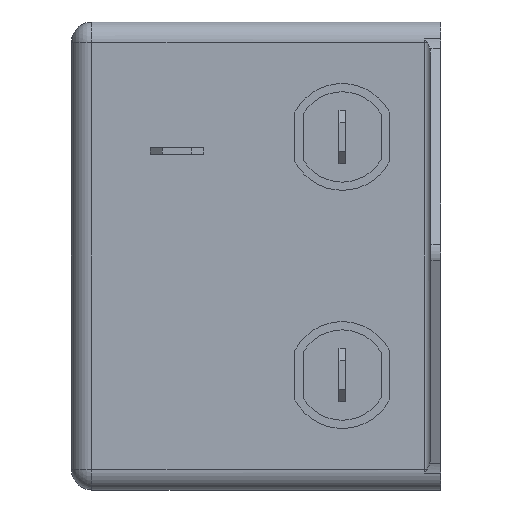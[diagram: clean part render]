
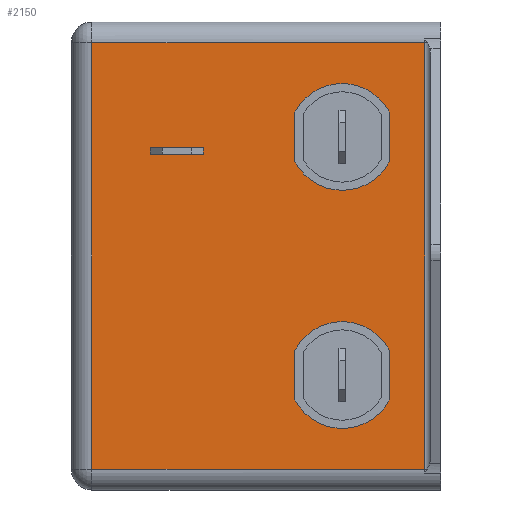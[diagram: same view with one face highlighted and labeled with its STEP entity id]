
A CAD part, left-side view. The second image highlights one B-rep face of the part: STEP entity #2150.
In plain terms, the highlighted planar face has unit normal (-1, 0, 0).
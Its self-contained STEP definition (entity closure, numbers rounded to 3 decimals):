
#22 = EDGE_CURVE ( 'NONE', #4104, #4390, #3846, .T. ) ;
#41 = CARTESIAN_POINT ( 'NONE',  ( -46., 42.5, 26. ) ) ;
#52 = CARTESIAN_POINT ( 'NONE',  ( -46., 12., 14.5 ) ) ;
#60 = DIRECTION ( 'NONE',  ( 0., -1., 0. ) ) ;
#88 = DIRECTION ( 'NONE',  ( 0., 1., 0. ) ) ;
#109 = CARTESIAN_POINT ( 'NONE',  ( -46., 35.4, 13.2 ) ) ;
#141 = DIRECTION ( 'NONE',  ( 0., 0., -1. ) ) ;
#156 = ORIENTED_EDGE ( 'NONE', *, *, #3778, .F. ) ;
#164 = AXIS2_PLACEMENT_3D ( 'NONE', #2472, #788, #763 ) ;
#174 = CARTESIAN_POINT ( 'NONE',  ( -46., 35.4, 13.2 ) ) ;
#198 = VECTOR ( 'NONE', #4110, 1000. ) ;
#243 = VERTEX_POINT ( 'NONE', #3788 ) ;
#260 = EDGE_LOOP ( 'NONE', ( #947, #3365, #2017, #978 ) ) ;
#279 = CARTESIAN_POINT ( 'NONE',  ( -46., 6.25, -17.531 ) ) ;
#301 = CIRCLE ( 'NONE', #164, 6.5 ) ;
#340 = CARTESIAN_POINT ( 'NONE',  ( -46., 28.9, 12.4 ) ) ;
#368 = AXIS2_PLACEMENT_3D ( 'NONE', #1055, #1662, #990 ) ;
#377 = ORIENTED_EDGE ( 'NONE', *, *, #765, .F. ) ;
#401 = VERTEX_POINT ( 'NONE', #1855 ) ;
#406 = DIRECTION ( 'NONE',  ( 0., 0., 1. ) ) ;
#485 = CIRCLE ( 'NONE', #2112, 6.5 ) ;
#527 = FACE_BOUND ( 'NONE', #3219, .T. ) ;
#607 = CARTESIAN_POINT ( 'NONE',  ( -46., 12., -14.5 ) ) ;
#614 = LINE ( 'NONE', #1682, #1622 ) ;
#683 = CARTESIAN_POINT ( 'NONE',  ( -46., 1.95, -26. ) ) ;
#716 = CIRCLE ( 'NONE', #4112, 6.5 ) ;
#722 = DIRECTION ( 'NONE',  ( 0., 1., 0. ) ) ;
#754 = DIRECTION ( 'NONE',  ( 0., 0., 1. ) ) ;
#763 = DIRECTION ( 'NONE',  ( 0., 0., 1. ) ) ;
#765 = EDGE_CURVE ( 'NONE', #401, #3178, #1675, .T. ) ;
#788 = DIRECTION ( 'NONE',  ( -1., 0., 0. ) ) ;
#791 = FACE_BOUND ( 'NONE', #2313, .T. ) ;
#794 = CARTESIAN_POINT ( 'NONE',  ( -46., 42.5, -26. ) ) ;
#806 = EDGE_CURVE ( 'NONE', #1203, #401, #4378, .T. ) ;
#900 = EDGE_CURVE ( 'NONE', #3412, #4321, #301, .T. ) ;
#947 = ORIENTED_EDGE ( 'NONE', *, *, #4045, .T. ) ;
#978 = ORIENTED_EDGE ( 'NONE', *, *, #1300, .T. ) ;
#990 = DIRECTION ( 'NONE',  ( 0., 0., 1. ) ) ;
#1052 = DIRECTION ( 'NONE',  ( 0., 0., -1. ) ) ;
#1055 = CARTESIAN_POINT ( 'NONE',  ( -46., 12., 14.5 ) ) ;
#1065 = VECTOR ( 'NONE', #2351, 1000. ) ;
#1161 = CARTESIAN_POINT ( 'NONE',  ( -46., 45., 28.5 ) ) ;
#1176 = CARTESIAN_POINT ( 'NONE',  ( -46., 12., -14.5 ) ) ;
#1201 = LINE ( 'NONE', #279, #3908 ) ;
#1203 = VERTEX_POINT ( 'NONE', #4086 ) ;
#1208 = FACE_BOUND ( 'NONE', #1664, .T. ) ;
#1220 = ORIENTED_EDGE ( 'NONE', *, *, #4184, .F. ) ;
#1261 = EDGE_CURVE ( 'NONE', #243, #2267, #716, .T. ) ;
#1273 = DIRECTION ( 'NONE',  ( 0., 0., 1. ) ) ;
#1291 = VECTOR ( 'NONE', #60, 1000. ) ;
#1300 = EDGE_CURVE ( 'NONE', #2815, #2513, #3844, .T. ) ;
#1346 = CARTESIAN_POINT ( 'NONE',  ( -46., 17.75, 17.531 ) ) ;
#1351 = VECTOR ( 'NONE', #754, 1000. ) ;
#1373 = DIRECTION ( 'NONE',  ( -1., 0., 0. ) ) ;
#1381 = EDGE_CURVE ( 'NONE', #3597, #3175, #1201, .T. ) ;
#1425 = VECTOR ( 'NONE', #1052, 1000. ) ;
#1428 = CARTESIAN_POINT ( 'NONE',  ( -46., 6.25, 11.469 ) ) ;
#1462 = ORIENTED_EDGE ( 'NONE', *, *, #22, .F. ) ;
#1496 = EDGE_CURVE ( 'NONE', #2049, #243, #614, .T. ) ;
#1505 = DIRECTION ( 'NONE',  ( 1., 0., 0. ) ) ;
#1530 = LINE ( 'NONE', #794, #3030 ) ;
#1622 = VECTOR ( 'NONE', #2622, 1000. ) ;
#1638 = LINE ( 'NONE', #2726, #1065 ) ;
#1650 = VECTOR ( 'NONE', #406, 1000. ) ;
#1662 = DIRECTION ( 'NONE',  ( -1., 0., 0. ) ) ;
#1664 = EDGE_LOOP ( 'NONE', ( #2206, #156, #1462, #3676, #2874 ) ) ;
#1675 = LINE ( 'NONE', #340, #1650 ) ;
#1682 = CARTESIAN_POINT ( 'NONE',  ( -46., 17.75, -11.469 ) ) ;
#1692 = DIRECTION ( 'NONE',  ( 0., 0., 1. ) ) ;
#1714 = AXIS2_PLACEMENT_3D ( 'NONE', #2420, #1373, #2460 ) ;
#1717 = ORIENTED_EDGE ( 'NONE', *, *, #1381, .F. ) ;
#1736 = ORIENTED_EDGE ( 'NONE', *, *, #806, .F. ) ;
#1740 = CARTESIAN_POINT ( 'NONE',  ( -46., 28.9, 13.2 ) ) ;
#1768 = ORIENTED_EDGE ( 'NONE', *, *, #1496, .F. ) ;
#1797 = VERTEX_POINT ( 'NONE', #174 ) ;
#1855 = CARTESIAN_POINT ( 'NONE',  ( -46., 28.9, 12.4 ) ) ;
#1868 = CARTESIAN_POINT ( 'NONE',  ( -46., 6.25, -17.531 ) ) ;
#1881 = FACE_OUTER_BOUND ( 'NONE', #260, .T. ) ;
#1925 = CARTESIAN_POINT ( 'NONE',  ( -46., 42.5, -26. ) ) ;
#1958 = DIRECTION ( 'NONE',  ( -1., 0., 0. ) ) ;
#2005 = CARTESIAN_POINT ( 'NONE',  ( -46., 17.75, 11.469 ) ) ;
#2017 = ORIENTED_EDGE ( 'NONE', *, *, #2652, .T. ) ;
#2049 = VERTEX_POINT ( 'NONE', #4382 ) ;
#2076 = LINE ( 'NONE', #109, #3324 ) ;
#2112 = AXIS2_PLACEMENT_3D ( 'NONE', #607, #1958, #1273 ) ;
#2120 = AXIS2_PLACEMENT_3D ( 'NONE', #1161, #1505, #88 ) ;
#2150 = ADVANCED_FACE ( 'NONE', ( #1208, #527, #791, #1881 ), #2835, .F. ) ;
#2162 = DIRECTION ( 'NONE',  ( 0., 0., -1. ) ) ;
#2206 = ORIENTED_EDGE ( 'NONE', *, *, #900, .F. ) ;
#2215 = VECTOR ( 'NONE', #2162, 1000. ) ;
#2224 = VERTEX_POINT ( 'NONE', #3517 ) ;
#2263 = VECTOR ( 'NONE', #722, 1000. ) ;
#2267 = VERTEX_POINT ( 'NONE', #4218 ) ;
#2313 = EDGE_LOOP ( 'NONE', ( #3488, #1717, #1220, #3888, #1768 ) ) ;
#2348 = CIRCLE ( 'NONE', #3197, 6.5 ) ;
#2351 = DIRECTION ( 'NONE',  ( 0., 0., 1. ) ) ;
#2420 = CARTESIAN_POINT ( 'NONE',  ( -46., 12., -14.5 ) ) ;
#2460 = DIRECTION ( 'NONE',  ( 0., 0., 1. ) ) ;
#2472 = CARTESIAN_POINT ( 'NONE',  ( -46., 12., 14.5 ) ) ;
#2513 = VERTEX_POINT ( 'NONE', #1925 ) ;
#2548 = DIRECTION ( 'NONE',  ( 0., -1., 0. ) ) ;
#2560 = CIRCLE ( 'NONE', #1714, 6.5 ) ;
#2589 = CARTESIAN_POINT ( 'NONE',  ( -46., 12., 8. ) ) ;
#2622 = DIRECTION ( 'NONE',  ( 0., 0., -1. ) ) ;
#2652 = EDGE_CURVE ( 'NONE', #4192, #2815, #3028, .T. ) ;
#2713 = VERTEX_POINT ( 'NONE', #2005 ) ;
#2726 = CARTESIAN_POINT ( 'NONE',  ( -46., 6.25, 11.469 ) ) ;
#2775 = DIRECTION ( 'NONE',  ( -1., 0., 0. ) ) ;
#2815 = VERTEX_POINT ( 'NONE', #3474 ) ;
#2835 = PLANE ( 'NONE',  #2120 ) ;
#2874 = ORIENTED_EDGE ( 'NONE', *, *, #3900, .F. ) ;
#2925 = CARTESIAN_POINT ( 'NONE',  ( -46., 28.9, 13.2 ) ) ;
#2991 = DIRECTION ( 'NONE',  ( 0., 0., 1. ) ) ;
#3005 = CARTESIAN_POINT ( 'NONE',  ( -46., 17.75, 17.531 ) ) ;
#3028 = LINE ( 'NONE', #41, #2263 ) ;
#3030 = VECTOR ( 'NONE', #2548, 1000. ) ;
#3076 = LINE ( 'NONE', #1346, #1425 ) ;
#3175 = VERTEX_POINT ( 'NONE', #3800 ) ;
#3177 = DIRECTION ( 'NONE',  ( -1., 0., 0. ) ) ;
#3178 = VERTEX_POINT ( 'NONE', #1740 ) ;
#3197 = AXIS2_PLACEMENT_3D ( 'NONE', #52, #2775, #1692 ) ;
#3219 = EDGE_LOOP ( 'NONE', ( #1736, #3818, #4037, #377 ) ) ;
#3241 = CARTESIAN_POINT ( 'NONE',  ( -46., 1.95, 26. ) ) ;
#3261 = LINE ( 'NONE', #2925, #198 ) ;
#3324 = VECTOR ( 'NONE', #141, 1000. ) ;
#3365 = ORIENTED_EDGE ( 'NONE', *, *, #3491, .T. ) ;
#3395 = EDGE_CURVE ( 'NONE', #3175, #2049, #2560, .T. ) ;
#3412 = VERTEX_POINT ( 'NONE', #4123 ) ;
#3471 = EDGE_CURVE ( 'NONE', #2713, #4104, #2348, .T. ) ;
#3474 = CARTESIAN_POINT ( 'NONE',  ( -46., 42.5, 26. ) ) ;
#3488 = ORIENTED_EDGE ( 'NONE', *, *, #3395, .F. ) ;
#3491 = EDGE_CURVE ( 'NONE', #2224, #4192, #3790, .T. ) ;
#3517 = CARTESIAN_POINT ( 'NONE',  ( -46., 1.95, -26. ) ) ;
#3558 = DIRECTION ( 'NONE',  ( 0., 0., 1. ) ) ;
#3597 = VERTEX_POINT ( 'NONE', #1868 ) ;
#3676 = ORIENTED_EDGE ( 'NONE', *, *, #3471, .F. ) ;
#3778 = EDGE_CURVE ( 'NONE', #4390, #3412, #1638, .T. ) ;
#3788 = CARTESIAN_POINT ( 'NONE',  ( -46., 17.75, -17.531 ) ) ;
#3790 = LINE ( 'NONE', #683, #1351 ) ;
#3800 = CARTESIAN_POINT ( 'NONE',  ( -46., 6.25, -11.469 ) ) ;
#3818 = ORIENTED_EDGE ( 'NONE', *, *, #4350, .F. ) ;
#3844 = LINE ( 'NONE', #3890, #2215 ) ;
#3846 = CIRCLE ( 'NONE', #368, 6.5 ) ;
#3888 = ORIENTED_EDGE ( 'NONE', *, *, #1261, .F. ) ;
#3890 = CARTESIAN_POINT ( 'NONE',  ( -46., 42.5, -26. ) ) ;
#3900 = EDGE_CURVE ( 'NONE', #4321, #2713, #3076, .T. ) ;
#3908 = VECTOR ( 'NONE', #2991, 1000. ) ;
#4037 = ORIENTED_EDGE ( 'NONE', *, *, #4224, .F. ) ;
#4045 = EDGE_CURVE ( 'NONE', #2513, #2224, #1530, .T. ) ;
#4086 = CARTESIAN_POINT ( 'NONE',  ( -46., 35.4, 12.4 ) ) ;
#4104 = VERTEX_POINT ( 'NONE', #2589 ) ;
#4110 = DIRECTION ( 'NONE',  ( 0., 1., 0. ) ) ;
#4112 = AXIS2_PLACEMENT_3D ( 'NONE', #1176, #3177, #3558 ) ;
#4123 = CARTESIAN_POINT ( 'NONE',  ( -46., 6.25, 17.531 ) ) ;
#4130 = CARTESIAN_POINT ( 'NONE',  ( -46., 35.4, 12.4 ) ) ;
#4184 = EDGE_CURVE ( 'NONE', #2267, #3597, #485, .T. ) ;
#4192 = VERTEX_POINT ( 'NONE', #3241 ) ;
#4218 = CARTESIAN_POINT ( 'NONE',  ( -46., 12., -21. ) ) ;
#4224 = EDGE_CURVE ( 'NONE', #3178, #1797, #3261, .T. ) ;
#4321 = VERTEX_POINT ( 'NONE', #3005 ) ;
#4350 = EDGE_CURVE ( 'NONE', #1797, #1203, #2076, .T. ) ;
#4378 = LINE ( 'NONE', #4130, #1291 ) ;
#4382 = CARTESIAN_POINT ( 'NONE',  ( -46., 17.75, -11.469 ) ) ;
#4390 = VERTEX_POINT ( 'NONE', #1428 ) ;
